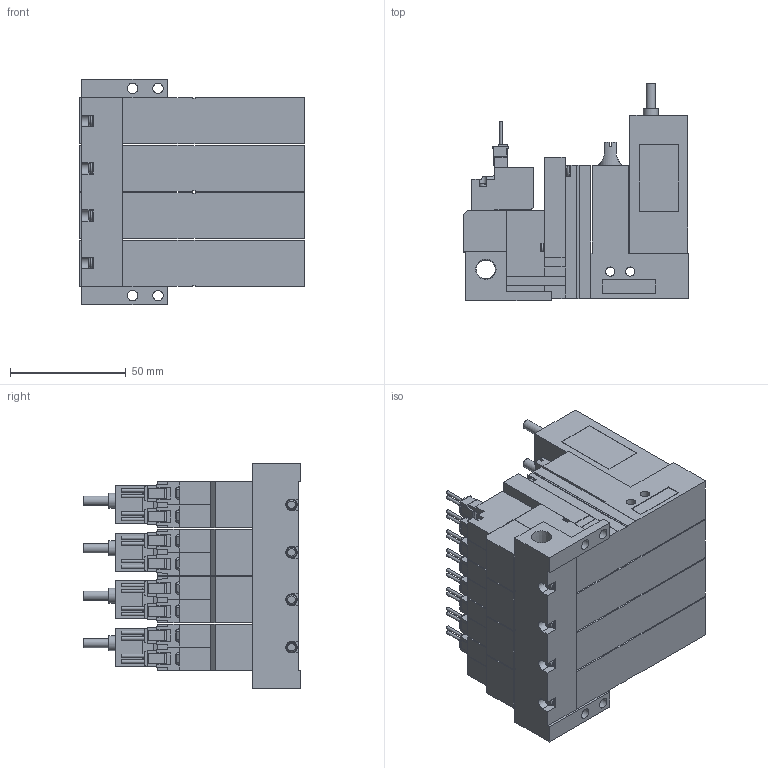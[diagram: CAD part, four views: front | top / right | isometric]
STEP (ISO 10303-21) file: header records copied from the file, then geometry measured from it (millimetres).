
FILE_DESCRIPTION(('STEP AP203'),'1');
FILE_NAME('VG_VGPLC5BLR404.stp','2025-02-18T23:39:15',(' '),(' '),'Spatial InterOp 3D',' ',' ');
FILE_SCHEMA(('CONFIG_CONTROL_DESIGN'));
Length unit declared in the file: millimetre
Products named in the file (5): BMC22M※※※※VG_VGPLC5BLR404; Solenoid valve B; Pressure sensor VGLC; Unit LC; Base MR40R
Assembly tree (13 placements, depth 2):
  BMC22M※※※※VG_VGPLC5BLR404
    Solenoid valve B  x4
    Pressure sensor VGLC  x4
    Unit LC  x4
    Base MR40R
Bounding box: 97.6 x 94 x 97.5 mm (x, y, z)
Volume: 448788.2 mm3; surface area: 115380 mm2
Topology: 13 solids, 13 shells, 1585 faces, 4247 edges, 2800 vertices
Faces by surface type: plane 1342, cylinder 193, cone 30, torus 20
Full cylindrical faces by diameter (mm): 1.4 x16, 2.5 x12, 3 x16, 3.5 x16, 3.6 x4, 4 x24, 4.134 x4, 4.5 x4, 5.2 x4, 6 x4, 6.5 x4, 6.6 x4, 8.279 x1
Entity records: 14214 total; most frequent: CARTESIAN_POINT 2702, DIRECTION 2256, ORIENTED_EDGE 2240, EDGE_CURVE 1120, LINE 918, VECTOR 918, VERTEX_POINT 779, AXIS2_PLACEMENT_3D 669
